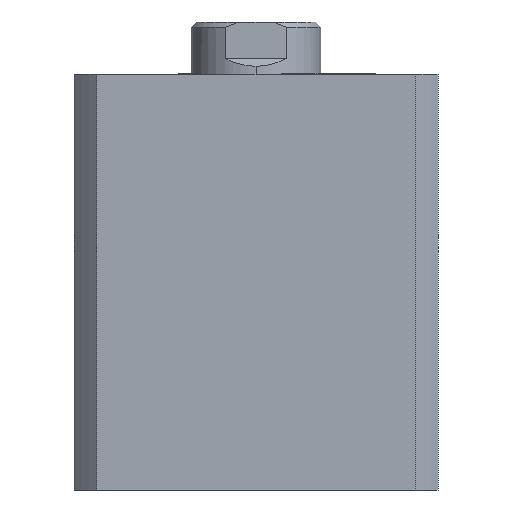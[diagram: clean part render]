
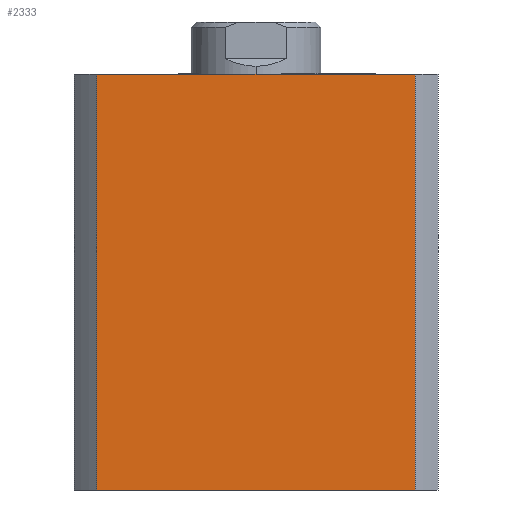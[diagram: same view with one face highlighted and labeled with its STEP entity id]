
A CAD part, left-side view. The second image highlights one B-rep face of the part: STEP entity #2333.
In plain terms, the highlighted planar face has unit normal (-1, 0, 0).
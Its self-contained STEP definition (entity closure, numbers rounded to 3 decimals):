
#233 = DIRECTION ( 'NONE',  ( 0., 0., -1. ) ) ;
#241 = CARTESIAN_POINT ( 'NONE',  ( -35., 30.615, 80. ) ) ;
#243 = CARTESIAN_POINT ( 'NONE',  ( -35., 0., 0. ) ) ;
#248 = DIRECTION ( 'NONE',  ( 0., -1., 0. ) ) ;
#249 = CARTESIAN_POINT ( 'NONE',  ( -35., -30.615, 80. ) ) ;
#251 = DIRECTION ( 'NONE',  ( 0., 0., -1. ) ) ;
#499 = CARTESIAN_POINT ( 'NONE',  ( -35., 0., 80. ) ) ;
#500 = DIRECTION ( 'NONE',  ( 0., -1., 0. ) ) ;
#619 = CARTESIAN_POINT ( 'NONE',  ( -35., -30.615, 80. ) ) ;
#620 = CARTESIAN_POINT ( 'NONE',  ( -35., 30.615, 0. ) ) ;
#633 = CARTESIAN_POINT ( 'NONE',  ( -35., 30.615, 80. ) ) ;
#651 = CARTESIAN_POINT ( 'NONE',  ( -35., -30.615, 0. ) ) ;
#1148 = FACE_OUTER_BOUND ( 'NONE', #4170, .T. ) ;
#1501 = LINE ( 'NONE', #243, #1507 ) ;
#1503 = LINE ( 'NONE', #241, #1505 ) ;
#1505 = VECTOR ( 'NONE', #233, 1000. ) ;
#1506 = LINE ( 'NONE', #249, #1509 ) ;
#1507 = VECTOR ( 'NONE', #248, 1000. ) ;
#1509 = VECTOR ( 'NONE', #251, 1000. ) ;
#1643 = LINE ( 'NONE', #499, #1646 ) ;
#1646 = VECTOR ( 'NONE', #500, 1000. ) ;
#2333 = ADVANCED_FACE ( 'NONE', ( #1148 ), #3572, .F. ) ;
#2721 = AXIS2_PLACEMENT_3D ( 'NONE', #3566, #3575, #3576 ) ;
#2978 = EDGE_CURVE ( 'NONE', #4792, #4778, #1503, .T. ) ;
#2979 = EDGE_CURVE ( 'NONE', #4778, #4812, #1501, .T. ) ;
#2980 = EDGE_CURVE ( 'NONE', #4776, #4812, #1506, .T. ) ;
#3566 = CARTESIAN_POINT ( 'NONE',  ( -35., 0., 80. ) ) ;
#3572 = PLANE ( 'NONE',  #2721 ) ;
#3575 = DIRECTION ( 'NONE',  ( 1., 0., 0. ) ) ;
#3576 = DIRECTION ( 'NONE',  ( 0., 1., 0. ) ) ;
#4090 = EDGE_CURVE ( 'NONE', #4792, #4776, #1643, .T. ) ;
#4170 = EDGE_LOOP ( 'NONE', ( #4985, #4984, #4981, #4978 ) ) ;
#4776 = VERTEX_POINT ( 'NONE', #619 ) ;
#4778 = VERTEX_POINT ( 'NONE', #620 ) ;
#4792 = VERTEX_POINT ( 'NONE', #633 ) ;
#4812 = VERTEX_POINT ( 'NONE', #651 ) ;
#4978 = ORIENTED_EDGE ( 'NONE', *, *, #2978, .T. ) ;
#4981 = ORIENTED_EDGE ( 'NONE', *, *, #4090, .F. ) ;
#4984 = ORIENTED_EDGE ( 'NONE', *, *, #2980, .F. ) ;
#4985 = ORIENTED_EDGE ( 'NONE', *, *, #2979, .T. ) ;
